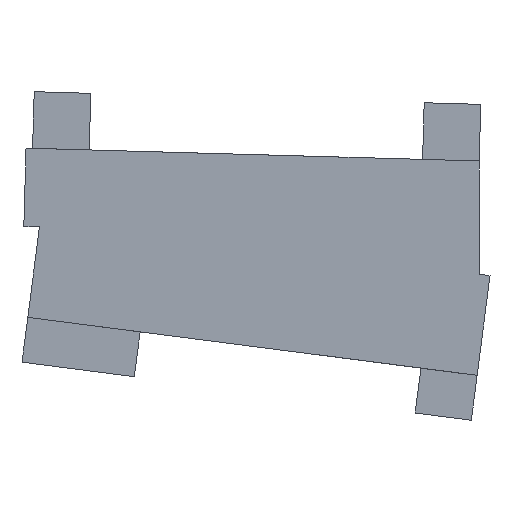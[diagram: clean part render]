
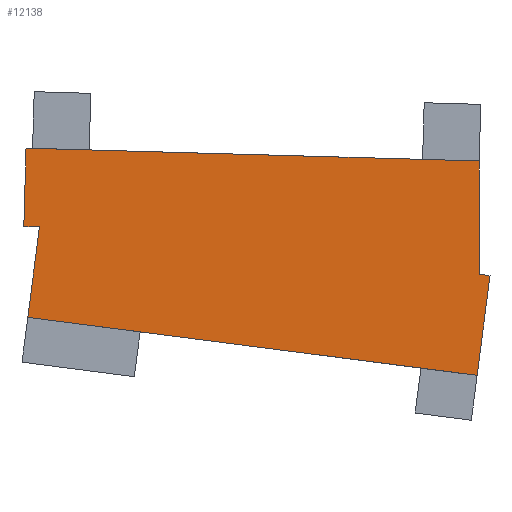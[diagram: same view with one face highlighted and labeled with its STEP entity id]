
A CAD part, front view. The second image highlights one B-rep face of the part: STEP entity #12138.
In plain terms, the highlighted planar face has unit normal (0, -1, 0).
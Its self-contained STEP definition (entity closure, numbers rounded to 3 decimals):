
#1=DIRECTION('',(-0.992,0.,0.128));
#2=VECTOR('',#1,0.963);
#3=CARTESIAN_POINT('',(40.808,-20.,3.678));
#4=LINE('',#3,#2);
#5=DIRECTION('',(-0.128,0.,-0.992));
#6=VECTOR('',#5,8.878);
#7=CARTESIAN_POINT('',(40.808,-20.,3.678));
#8=LINE('',#7,#6);
#9=DIRECTION('',(-0.992,0.,0.128));
#10=VECTOR('',#9,40.);
#11=CARTESIAN_POINT('',(39.67,-20.,-5.127));
#12=LINE('',#11,#10);
#13=DIRECTION('',(0.128,0.,0.992));
#14=VECTOR('',#13,8.067);
#15=CARTESIAN_POINT('',(0.,-20.,0.));
#16=LINE('',#15,#14);
#17=DIRECTION('',(-1.,0.,0.));
#18=VECTOR('',#17,1.387);
#19=CARTESIAN_POINT('',(1.034,-20.,8.));
#20=LINE('',#19,#18);
#21=DIRECTION('',(0.028,0.,1.));
#22=VECTOR('',#21,6.879);
#23=CARTESIAN_POINT('',(-0.354,-20.,8.));
#24=LINE('',#23,#22);
#25=DIRECTION('',(1.,0.,0.));
#26=VECTOR('',#25,2.081);
#27=CARTESIAN_POINT('',(-0.159,-20.,14.876));
#28=LINE('',#27,#26);
#29=DIRECTION('',(1.,0.,-0.028));
#30=VECTOR('',#29,37.946);
#31=CARTESIAN_POINT('',(1.923,-20.,14.876));
#32=LINE('',#31,#30);
#33=DIRECTION('',(0.,0.,1.));
#34=VECTOR('',#33,10.);
#35=CARTESIAN_POINT('',(39.853,-20.,3.801));
#36=LINE('',#35,#34);
#9153=CARTESIAN_POINT('',(39.67,-20.,-5.127));
#9154=VERTEX_POINT('',#9153);
#10705=CARTESIAN_POINT('',(0.,-20.,0.));
#10706=CARTESIAN_POINT('',(1.034,-20.,8.));
#10707=VERTEX_POINT('',#10705);
#10708=VERTEX_POINT('',#10706);
#10721=CARTESIAN_POINT('',(-0.354,-20.,8.));
#10722=CARTESIAN_POINT('',(-0.159,-20.,14.876));
#10723=VERTEX_POINT('',#10721);
#10724=VERTEX_POINT('',#10722);
#10731=CARTESIAN_POINT('',(1.923,-20.,14.876));
#10732=VERTEX_POINT('',#10731);
#10733=CARTESIAN_POINT('',(40.808,-20.,3.678));
#10734=CARTESIAN_POINT('',(39.853,-20.,3.801));
#10735=VERTEX_POINT('',#10733);
#10736=VERTEX_POINT('',#10734);
#10737=CARTESIAN_POINT('',(39.853,-20.,13.801));
#10738=VERTEX_POINT('',#10737);
#12113=CARTESIAN_POINT('',(0.,-20.,0.));
#12114=DIRECTION('',(0.,1.,0.));
#12115=DIRECTION('',(1.,0.,0.));
#12116=AXIS2_PLACEMENT_3D('',#12113,#12114,#12115);
#12117=PLANE('',#12116);
#12119=ORIENTED_EDGE('',*,*,#12118,.F.);
#12121=ORIENTED_EDGE('',*,*,#12120,.T.);
#12123=ORIENTED_EDGE('',*,*,#12122,.T.);
#12125=ORIENTED_EDGE('',*,*,#12124,.T.);
#12127=ORIENTED_EDGE('',*,*,#12126,.T.);
#12129=ORIENTED_EDGE('',*,*,#12128,.T.);
#12131=ORIENTED_EDGE('',*,*,#12130,.T.);
#12133=ORIENTED_EDGE('',*,*,#12132,.T.);
#12135=ORIENTED_EDGE('',*,*,#12134,.F.);
#12136=EDGE_LOOP('',(#12119,#12121,#12123,#12125,#12127,#12129,#12131,#12133,
#12135));
#12137=FACE_OUTER_BOUND('',#12136,.F.);
#12138=ADVANCED_FACE('',(#12137),#12117,.F.);
#12118=EDGE_CURVE('',#10735,#10736,#4,.T.);
#12120=EDGE_CURVE('',#10735,#9154,#8,.T.);
#12122=EDGE_CURVE('',#9154,#10707,#12,.T.);
#12124=EDGE_CURVE('',#10707,#10708,#16,.T.);
#12126=EDGE_CURVE('',#10708,#10723,#20,.T.);
#12128=EDGE_CURVE('',#10723,#10724,#24,.T.);
#12130=EDGE_CURVE('',#10724,#10732,#28,.T.);
#12132=EDGE_CURVE('',#10732,#10738,#32,.T.);
#12134=EDGE_CURVE('',#10736,#10738,#36,.T.);
